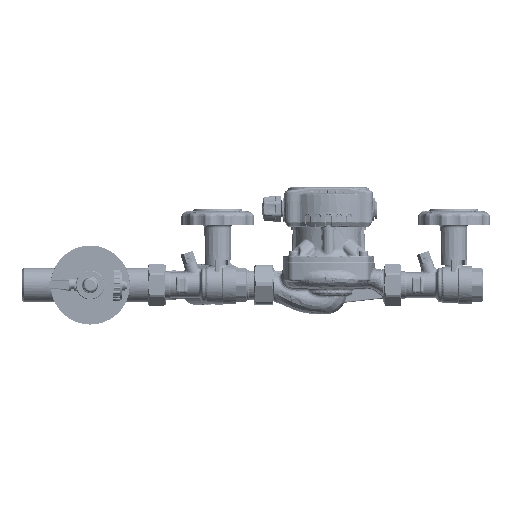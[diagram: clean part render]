
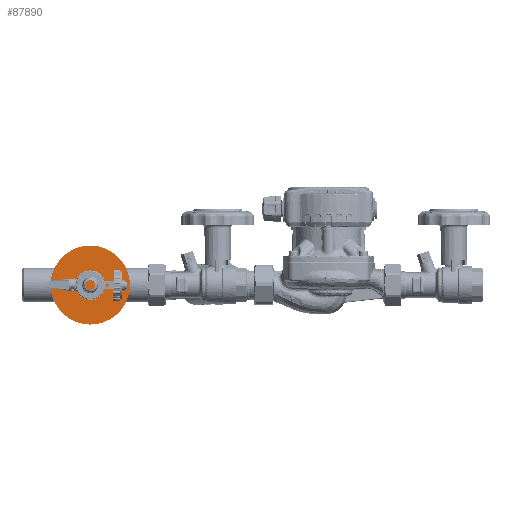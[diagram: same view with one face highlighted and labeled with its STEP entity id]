
A CAD part, front view. The second image highlights one B-rep face of the part: STEP entity #87890.
In plain terms, the highlighted planar face has unit normal (0, -1, 0) as drawn and (-1, 0, 0) by its records, which use the part's own axes.
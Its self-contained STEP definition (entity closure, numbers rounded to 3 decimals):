
#26591 = CARTESIAN_POINT ( 'NONE',  ( -247.5, 38.5, 0. ) ) ;
#31823 = EDGE_LOOP ( 'NONE', ( #332147, #247049 ) ) ;
#68693 = DIRECTION ( 'NONE',  ( 0., -1., 0. ) ) ;
#70715 = CIRCLE ( 'NONE', #269457, 38.5 ) ;
#87890 = ADVANCED_FACE ( 'NONE', ( #210416 ), #293999, .F. ) ;
#101392 = CARTESIAN_POINT ( 'NONE',  ( -247.5, 0., 0. ) ) ;
#128853 = CARTESIAN_POINT ( 'NONE',  ( -247.5, -38.5, 0. ) ) ;
#133882 = CARTESIAN_POINT ( 'NONE',  ( -247.5, 0., 0. ) ) ;
#135718 = VERTEX_POINT ( 'NONE', #128853 ) ;
#210416 = FACE_OUTER_BOUND ( 'NONE', #31823, .T. ) ;
#227726 = EDGE_CURVE ( 'NONE', #135718, #287950, #314861, .T. ) ;
#228139 = EDGE_CURVE ( 'NONE', #287950, #135718, #70715, .T. ) ;
#247049 = ORIENTED_EDGE ( 'NONE', *, *, #228139, .F. ) ;
#252381 = AXIS2_PLACEMENT_3D ( 'NONE', #101392, #289941, #257972 ) ;
#257972 = DIRECTION ( 'NONE',  ( 0., -1., 0. ) ) ;
#267312 = DIRECTION ( 'NONE',  ( 0., 1., 0. ) ) ;
#269148 = AXIS2_PLACEMENT_3D ( 'NONE', #133882, #297514, #267312 ) ;
#269457 = AXIS2_PLACEMENT_3D ( 'NONE', #283812, #337077, #68693 ) ;
#283812 = CARTESIAN_POINT ( 'NONE',  ( -247.5, 0., 0. ) ) ;
#287950 = VERTEX_POINT ( 'NONE', #26591 ) ;
#289941 = DIRECTION ( 'NONE',  ( 1., 0., 0. ) ) ;
#293999 = PLANE ( 'NONE',  #269148 ) ;
#297514 = DIRECTION ( 'NONE',  ( 1., 0., 0. ) ) ;
#314861 = CIRCLE ( 'NONE', #252381, 38.5 ) ;
#332147 = ORIENTED_EDGE ( 'NONE', *, *, #227726, .F. ) ;
#337077 = DIRECTION ( 'NONE',  ( 1., 0., 0. ) ) ;
